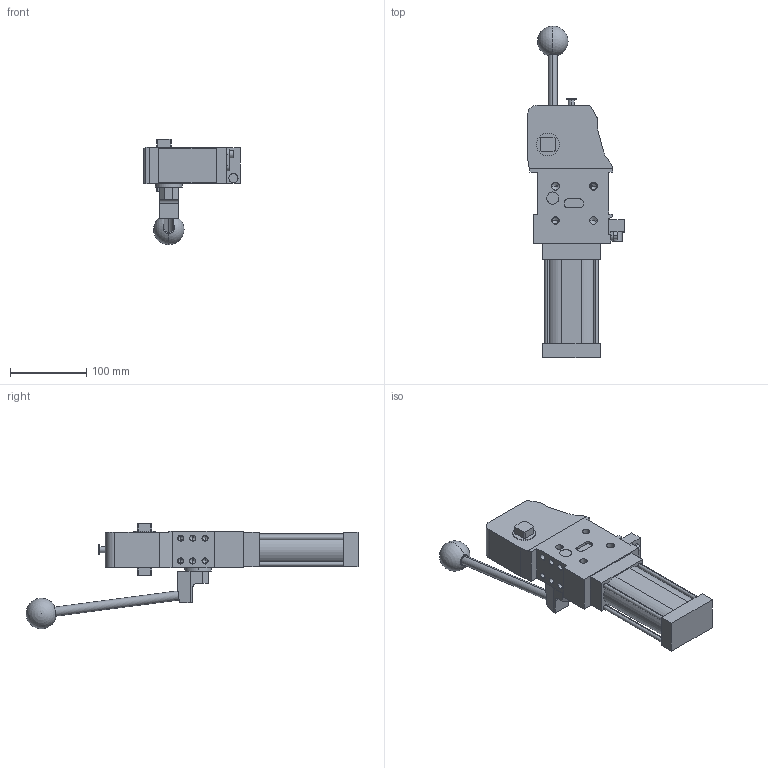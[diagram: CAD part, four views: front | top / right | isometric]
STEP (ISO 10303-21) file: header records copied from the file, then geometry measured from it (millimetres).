
FILE_DESCRIPTION (( 'STEP AP214' ), '1' );
FILE_NAME ('cplm50lbxxxi1g_135.STEP', '2023-01-27T10:38:59', ( '' ), ( '' ), 'SwSTEP 2.0', 'SolidWorks 2022', '' );
FILE_SCHEMA (( 'AUTOMOTIVE_DESIGN' ));
Length unit declared in the file: millimetre
Products named in the file (5): manovella_cpl_50; cplm50lbxxxi1g_135; meccanica_cplm_50; comando_manuale_cplm_50; blocchetto_VEP_0
Assembly tree (4 placements, depth 2):
  cplm50lbxxxi1g_135
    meccanica_cplm_50
    blocchetto_VEP_0
    manovella_cpl_50
    comando_manuale_cplm_50
Bounding box: 127 x 436.23 x 138.5 mm (x, y, z)
Volume: 1337015.1 mm3; surface area: 145594.4 mm2
Topology: 4 solids, 4 shells, 335 faces, 834 edges, 515 vertices
Faces by surface type: plane 148, cylinder 135, cone 50, sphere 2
Entity records: 11093 total; most frequent: DIRECTION 1749, CARTESIAN_POINT 1637, ORIENTED_EDGE 1566, EDGE_CURVE 783, AXIS2_PLACEMENT_3D 624, VERTEX_POINT 512, VECTOR 501, LINE 501
